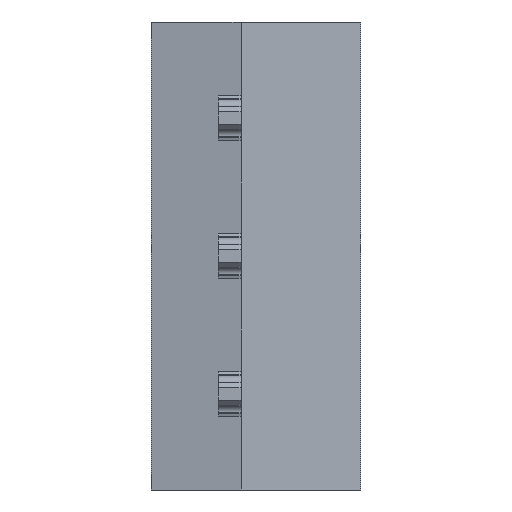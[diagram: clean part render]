
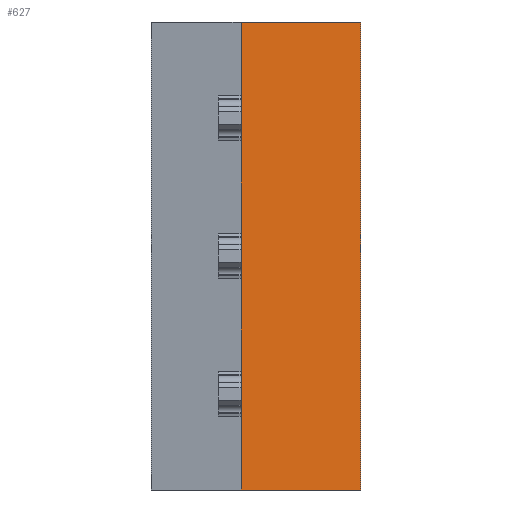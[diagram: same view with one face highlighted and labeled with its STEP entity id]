
A CAD part, front view. The second image highlights one B-rep face of the part: STEP entity #627.
In plain terms, the highlighted planar face has unit normal (0.099, -0.995, 0).
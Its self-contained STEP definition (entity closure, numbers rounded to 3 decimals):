
#18 = CARTESIAN_POINT ( 'NONE',  ( 0., 0., -1.665 ) ) ;
#99 = DIRECTION ( 'NONE',  ( 0., 0., 1. ) ) ;
#353 = EDGE_CURVE ( 'NONE', #2111, #2799, #443, .T. ) ;
#392 = EDGE_CURVE ( 'NONE', #2111, #2114, #3662, .T. ) ;
#443 = LINE ( 'NONE', #848, #3370 ) ;
#480 = VECTOR ( 'NONE', #2189, 1000. ) ;
#482 = ORIENTED_EDGE ( 'NONE', *, *, #2923, .F. ) ;
#497 = CARTESIAN_POINT ( 'NONE',  ( 0., 0., -10.18 ) ) ;
#533 = ORIENTED_EDGE ( 'NONE', *, *, #3524, .T. ) ;
#575 = EDGE_CURVE ( 'NONE', #1367, #2114, #2280, .T. ) ;
#614 = EDGE_CURVE ( 'NONE', #2010, #2791, #1977, .T. ) ;
#627 = ADVANCED_FACE ( 'NONE', ( #2059 ), #2001, .T. ) ;
#724 = ORIENTED_EDGE ( 'NONE', *, *, #1754, .F. ) ;
#728 = CARTESIAN_POINT ( 'NONE',  ( 0., 0., -2.515 ) ) ;
#810 = ORIENTED_EDGE ( 'NONE', *, *, #1629, .T. ) ;
#848 = CARTESIAN_POINT ( 'NONE',  ( 0., 0., -10.18 ) ) ;
#858 = LINE ( 'NONE', #1906, #891 ) ;
#891 = VECTOR ( 'NONE', #1582, 1000. ) ;
#901 = LINE ( 'NONE', #497, #1493 ) ;
#963 = CARTESIAN_POINT ( 'NONE',  ( 0., 0., 0. ) ) ;
#990 = VECTOR ( 'NONE', #995, 1000. ) ;
#995 = DIRECTION ( 'NONE',  ( 0., 0., 1. ) ) ;
#1004 = CARTESIAN_POINT ( 'NONE',  ( 0., 0., -10.18 ) ) ;
#1017 = CARTESIAN_POINT ( 'NONE',  ( 0., 0., -4.665 ) ) ;
#1022 = LINE ( 'NONE', #1004, #990 ) ;
#1044 = VECTOR ( 'NONE', #1431, 1000. ) ;
#1065 = EDGE_CURVE ( 'NONE', #1972, #2010, #858, .T. ) ;
#1167 = ORIENTED_EDGE ( 'NONE', *, *, #392, .F. ) ;
#1243 = DIRECTION ( 'NONE',  ( 0.995, 0.099, 0. ) ) ;
#1273 = CARTESIAN_POINT ( 'NONE',  ( 2.6, 0.259, -10.18 ) ) ;
#1285 = ORIENTED_EDGE ( 'NONE', *, *, #614, .F. ) ;
#1294 = ORIENTED_EDGE ( 'NONE', *, *, #1065, .F. ) ;
#1329 = VECTOR ( 'NONE', #1877, 1000. ) ;
#1367 = VERTEX_POINT ( 'NONE', #2502 ) ;
#1431 = DIRECTION ( 'NONE',  ( 0., 0., 1. ) ) ;
#1437 = CARTESIAN_POINT ( 'NONE',  ( 2.6, 0.259, -10.18 ) ) ;
#1440 = LINE ( 'NONE', #1437, #1044 ) ;
#1472 = EDGE_LOOP ( 'NONE', ( #1285, #1294, #2665, #482, #533, #724, #2858, #1167, #3411, #810 ) ) ;
#1493 = VECTOR ( 'NONE', #99, 1000. ) ;
#1555 = CARTESIAN_POINT ( 'NONE',  ( 0., 0., -5.515 ) ) ;
#1582 = DIRECTION ( 'NONE',  ( 0., 0., 1. ) ) ;
#1601 = VERTEX_POINT ( 'NONE', #1555 ) ;
#1629 = EDGE_CURVE ( 'NONE', #2799, #2791, #1440, .T. ) ;
#1641 = CARTESIAN_POINT ( 'NONE',  ( 2.6, 0.259, 0. ) ) ;
#1713 = CARTESIAN_POINT ( 'NONE',  ( 0., 0., -10.18 ) ) ;
#1745 = VERTEX_POINT ( 'NONE', #1017 ) ;
#1754 = EDGE_CURVE ( 'NONE', #1367, #1601, #1022, .T. ) ;
#1807 = VERTEX_POINT ( 'NONE', #728 ) ;
#1846 = DIRECTION ( 'NONE',  ( 0.995, 0.099, 0. ) ) ;
#1867 = DIRECTION ( 'NONE',  ( 0.099, -0.995, 0. ) ) ;
#1871 = CARTESIAN_POINT ( 'NONE',  ( 0., 0., -10.18 ) ) ;
#1877 = DIRECTION ( 'NONE',  ( 0., 0., -1. ) ) ;
#1906 = CARTESIAN_POINT ( 'NONE',  ( 0., 0., -10.18 ) ) ;
#1954 = DIRECTION ( 'NONE',  ( 0.995, 0.099, 0. ) ) ;
#1958 = CARTESIAN_POINT ( 'NONE',  ( 0., 0., 0. ) ) ;
#1972 = VERTEX_POINT ( 'NONE', #18 ) ;
#1977 = LINE ( 'NONE', #1958, #2084 ) ;
#2001 = PLANE ( 'NONE',  #2178 ) ;
#2010 = VERTEX_POINT ( 'NONE', #963 ) ;
#2059 = FACE_OUTER_BOUND ( 'NONE', #1472, .T. ) ;
#2080 = CARTESIAN_POINT ( 'NONE',  ( 0., 0., -8.515 ) ) ;
#2084 = VECTOR ( 'NONE', #1954, 1000. ) ;
#2111 = VERTEX_POINT ( 'NONE', #1713 ) ;
#2114 = VERTEX_POINT ( 'NONE', #2080 ) ;
#2178 = AXIS2_PLACEMENT_3D ( 'NONE', #1871, #1867, #1846 ) ;
#2189 = DIRECTION ( 'NONE',  ( 0., 0., -1. ) ) ;
#2244 = CARTESIAN_POINT ( 'NONE',  ( 0., 0., -4.665 ) ) ;
#2258 = DIRECTION ( 'NONE',  ( 0., 0., -1. ) ) ;
#2278 = CARTESIAN_POINT ( 'NONE',  ( 0., 0., 0. ) ) ;
#2280 = LINE ( 'NONE', #2278, #2298 ) ;
#2298 = VECTOR ( 'NONE', #2258, 1000. ) ;
#2314 = EDGE_CURVE ( 'NONE', #1972, #1807, #3301, .T. ) ;
#2502 = CARTESIAN_POINT ( 'NONE',  ( 0., 0., -7.665 ) ) ;
#2571 = CARTESIAN_POINT ( 'NONE',  ( 0., 0., 0. ) ) ;
#2623 = LINE ( 'NONE', #2244, #1329 ) ;
#2665 = ORIENTED_EDGE ( 'NONE', *, *, #2314, .T. ) ;
#2740 = VECTOR ( 'NONE', #3642, 1000. ) ;
#2791 = VERTEX_POINT ( 'NONE', #1641 ) ;
#2799 = VERTEX_POINT ( 'NONE', #1273 ) ;
#2858 = ORIENTED_EDGE ( 'NONE', *, *, #575, .T. ) ;
#2923 = EDGE_CURVE ( 'NONE', #1745, #1807, #901, .T. ) ;
#3301 = LINE ( 'NONE', #2571, #480 ) ;
#3370 = VECTOR ( 'NONE', #1243, 1000. ) ;
#3411 = ORIENTED_EDGE ( 'NONE', *, *, #353, .T. ) ;
#3524 = EDGE_CURVE ( 'NONE', #1745, #1601, #2623, .T. ) ;
#3642 = DIRECTION ( 'NONE',  ( 0., 0., 1. ) ) ;
#3659 = CARTESIAN_POINT ( 'NONE',  ( 0., 0., -10.18 ) ) ;
#3662 = LINE ( 'NONE', #3659, #2740 ) ;
